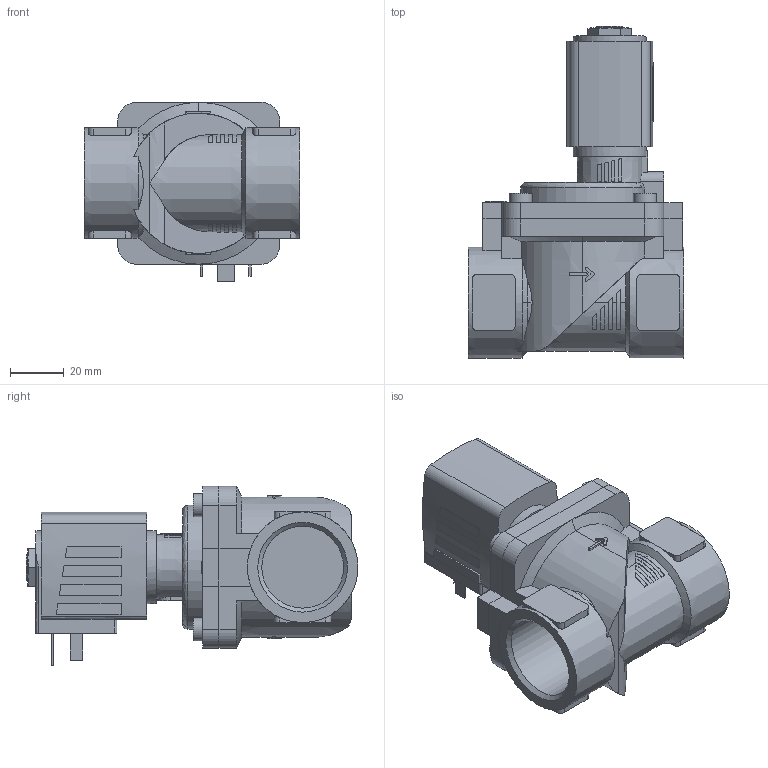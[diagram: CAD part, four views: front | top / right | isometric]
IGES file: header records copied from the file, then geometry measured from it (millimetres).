
Start section: Data from Parasolid IGES Translator 26.0.171, Copyright(c) 2006 Siemens PLM Software. All Rights Reserved.
Global section: file name: 6281-241842-2_2-Way_Solenoid_Valve__Servo-assisted__General_Purpose.igs; native system: By Siemens PLM Incorporated; preprocessor: XPlus GENERIC/IGES 26.0.171; author: Noname; organization: Noname; date: 20240527.104511; units: millimetre
Bounding box: 80 x 123 x 66.5 mm (x, y, z)
Surface area: 46116.5 mm2 (no closed solid volume)
Topology: 0 solids, 0 shells, 356 faces, 1820 edges, 1801 vertices
Faces by surface type: extrusion 233, revolution 123
